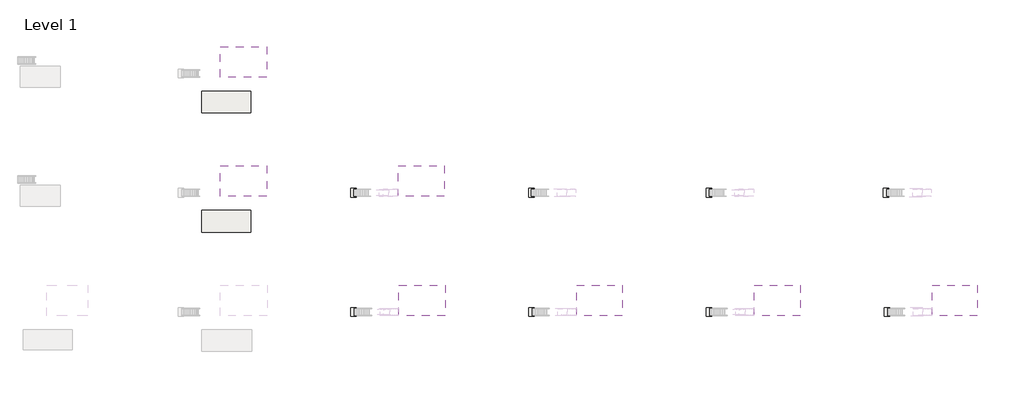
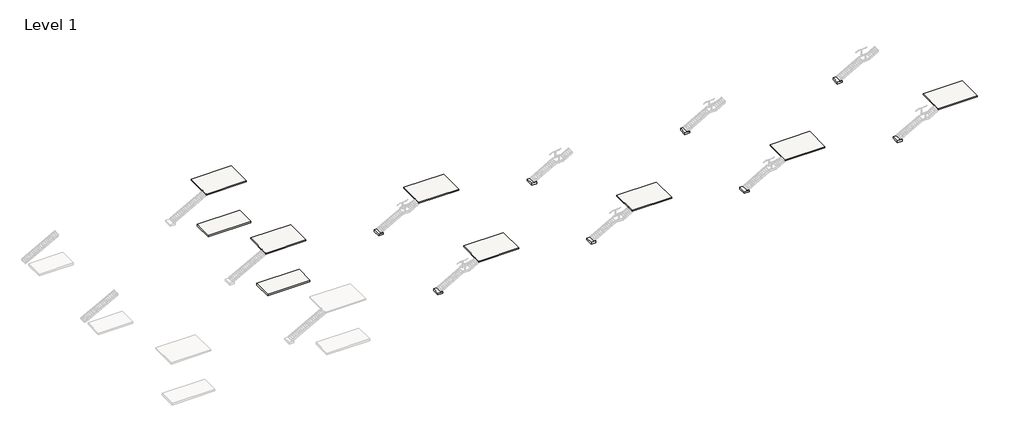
# One storey, part 2 of 36: 17 slabs.
"""IFC4 building model written with IfcOpenShell, lengths in millimetres."""

import ifcopenshell
import ifcopenshell.guid

model = None  # the IFC model being written
_history = None  # IfcOwnerHistory: only IFC2X3 demands one
_inside = {}  # id of a spatial element -> (the spatial element, [elements in it])
_under = {}  # id of a project, library or spatial element -> (it, [spatial elements below it])
_declared = {}  # id of a project -> (the project, [libraries it declares])
_typed = {}  # id of a type object -> (the type object, [elements of that type])
_made_of = {}  # id of a material, layer set ... -> (it, [elements and type objects made of it])


def new_model(schema):
    """Start an empty IFC model of exactly this schema.

    Asked for "IFC4X3", IfcOpenShell would pick the latest addendum, in which some entities
    have other attributes; the version numbers below select the first issue.
    IFC2X3 requires an IfcOwnerHistory on every rooted entity: one is made here for all.
    """
    global model, _history
    if schema == "IFC4X3":
        model = ifcopenshell.file(schema_version=(4, 3, 0, 0))
    else:
        model = ifcopenshell.file(schema=schema)
    _inside.clear()
    _under.clear()
    _declared.clear()
    _typed.clear()
    _made_of.clear()
    _history = None
    if model.schema == "IFC2X3":
        org = make("IfcOrganization", Name="unknown")
        user = make(
            "IfcPersonAndOrganization",
            ThePerson=make("IfcPerson", FamilyName="unknown"),
            TheOrganization=org,
        )
        app = make(
            "IfcApplication",
            ApplicationDeveloper=org,
            Version="unknown",
            ApplicationFullName="unknown",
            ApplicationIdentifier="unknown",
        )
        _history = make(
            "IfcOwnerHistory",
            OwningUser=user,
            OwningApplication=app,
            ChangeAction="ADDED",
            CreationDate=0,
        )
    return model


def make(cls, **values):
    """One entity of the class cls with the attributes given. An attribute that is None is left unset."""
    return model.create_entity(
        cls, **{name: value for name, value in values.items() if value is not None}
    )


def rooted(cls, **values):
    """An entity with a GlobalId (a new one), such as an element, a storey or a relation."""
    return make(cls, GlobalId=ifcopenshell.guid.new(), OwnerHistory=_history, **values)


def si_unit(unit_type, name, prefix=None):
    """IfcSIUnit, for example si_unit("LENGTHUNIT", "METRE", prefix="MILLI")."""
    return make("IfcSIUnit", UnitType=unit_type, Prefix=prefix, Name=name)


def assignment(units):
    """IfcUnitAssignment: the units of a project."""
    return None if units is None else make("IfcUnitAssignment", Units=units)


def point(xyz):
    """IfcCartesianPoint."""
    return None if xyz is None else make("IfcCartesianPoint", Coordinates=xyz)


def direction(xyz):
    """IfcDirection."""
    return None if xyz is None else make("IfcDirection", DirectionRatios=xyz)


def frame(location, z_axis=None, x_axis=None):
    """IfcAxis2Placement3D, a coordinate frame: its origin and axes. An axis left out is left unset."""
    return make(
        "IfcAxis2Placement3D",
        Location=point(location),
        Axis=direction(z_axis),
        RefDirection=direction(x_axis),
    )


def origin():
    """The frame at (0, 0, 0) with its axes left unset."""
    return frame((0.0, 0.0, 0.0))


def place(relative_to, where):
    """IfcLocalPlacement: puts the frame where relative to a parent placement (None: the world)."""
    return make(
        "IfcLocalPlacement", PlacementRelTo=relative_to, RelativePlacement=where
    )


def context(
    kind, dimensions, precision=None, world=None, true_north=None, identifier=None
):
    """IfcGeometricRepresentationContext, for example the 3D "Model" context."""
    return make(
        "IfcGeometricRepresentationContext",
        ContextIdentifier=identifier,
        ContextType=kind,
        CoordinateSpaceDimension=dimensions,
        Precision=precision,
        WorldCoordinateSystem=world,
        TrueNorth=true_north,
    )


def project(units=None, contexts=None):
    """IfcProject with its units and contexts."""
    return rooted(
        "IfcProject",
        Name="project",
        RepresentationContexts=contexts,
        UnitsInContext=assignment(units),
    )


def spatial(cls, under=None, at=None, **own):
    """A site, building, storey or space (cls), placed at a placement, below another one or the project."""
    s = rooted(cls, ObjectPlacement=at, **own)
    if under is not None:
        _under.setdefault(under.id(), (under, []))[1].append(s)
    return s


def polyline(points):
    """IfcPolyline through the points."""
    return make("IfcPolyline", Points=[point(p) for p in points])


def outline(outer, holes=None, kind="AREA"):
    """IfcArbitraryClosedProfileDef: a profile drawn as a closed curve; with holes, ...WithVoids."""
    if holes is None:
        return make("IfcArbitraryClosedProfileDef", ProfileType=kind, OuterCurve=outer)
    return make(
        "IfcArbitraryProfileDefWithVoids",
        ProfileType=kind,
        OuterCurve=outer,
        InnerCurves=holes,
    )


def extrude(swept, where, along, depth):
    """IfcExtrudedAreaSolid: the profile swept, set in the frame where, extruded along a direction by depth."""
    return make(
        "IfcExtrudedAreaSolid",
        SweptArea=swept,
        Position=where,
        ExtrudedDirection=direction(along),
        Depth=depth,
    )


def shape(context_of_items, identifier, shape_type, items):
    """IfcShapeRepresentation: the items that make up one representation, for example the "Body"."""
    return make(
        "IfcShapeRepresentation",
        ContextOfItems=context_of_items,
        RepresentationIdentifier=identifier,
        RepresentationType=shape_type,
        Items=items,
    )


def made_of(thing, what):
    """Note that an element or type object is made of a material, layer set ...; save() writes the relation."""
    if what is not None:
        _made_of.setdefault(what.id(), (what, []))[1].append(thing)
    return thing


def element(
    cls,
    number,
    at=None,
    inside=None,
    cuts=None,
    type_object=None,
    material=None,
    context=None,
    identifier="Body",
    shape_type=None,
    held_by="IfcProductDefinitionShape",
    body=None,
    shapes=None,
    **own,
):
    """One element of the class cls, such as IfcWall. Its Tag is "e" and its number.

    at: its placement. inside: the storey or other place that contains it. cuts: it is an
    opening in that element (IfcRelVoidsElement). A single representation is given by context,
    identifier, shape_type and body (its items); several are given by shapes. held_by: the class
    of the entity that holds the representations. save() writes the other relations.
    """
    e = rooted(cls, Tag="e%d" % number, ObjectPlacement=at, **own)
    if body is not None:
        shapes = [shape(context, identifier, shape_type, body)]
    if shapes is not None:
        e.Representation = make(held_by, Representations=shapes)
    if inside is not None:
        _inside.setdefault(inside.id(), (inside, []))[1].append(e)
    if cuts is not None:
        rooted(
            "IfcRelVoidsElement", RelatingBuildingElement=cuts, RelatedOpeningElement=e
        )
    if type_object is not None:
        _typed.setdefault(type_object.id(), (type_object, []))[1].append(e)
    return made_of(e, material)


def aggregate(whole, parts):
    """IfcRelAggregates: a whole, such as a stair, and the parts it consists of."""
    return rooted("IfcRelAggregates", RelatingObject=whole, RelatedObjects=parts)


def save(model, path):
    """Write the relations noted so far, then the file.

    IfcRelAggregates (storeys below a building ...), IfcRelContainedInSpatialStructure (elements
    in a storey), IfcRelDefinesByType, IfcRelAssociatesMaterial and IfcRelDeclares: one each for
    every whole, place, type object, material and project.
    """
    for whole, parts in _under.values():
        aggregate(whole, parts)
    for where, things in _inside.values():
        rooted(
            "IfcRelContainedInSpatialStructure",
            RelatedElements=things,
            RelatingStructure=where,
        )
    for kind, things in _typed.values():
        rooted("IfcRelDefinesByType", RelatedObjects=things, RelatingType=kind)
    for what, things in _made_of.values():
        rooted("IfcRelAssociatesMaterial", RelatedObjects=things, RelatingMaterial=what)
    for by, libraries in _declared.values():
        rooted("IfcRelDeclares", RelatingContext=by, RelatedDefinitions=libraries)
    model.write(path)


model = new_model("IFC4")

# Units and contexts
model_context = context("Model", 3, world=origin())
ifc_project = project(units=[si_unit("LENGTHUNIT", "METRE", prefix="MILLI")], contexts=[model_context])

# Site, building, storey
site = spatial("IfcSite", under=ifc_project)
building = spatial("IfcBuilding", under=site)
storey = spatial("IfcBuildingStorey", under=building, Name="Level 1", Elevation=0.0)

# Slabs
placement = place(None, origin())
element("IfcSlab", 1, ObjectType="Generic", at=placement, inside=storey, context=model_context, shape_type="SweptSolid", body=[
    extrude(outline(polyline([(72193.8310647, 32263.1530185), (65793.0310647, 32263.1530185), (65793.0310647, 36486.6144242), (72193.8310647, 36486.6144242), (72193.8310647, 32263.1530185)])), frame((0.0, 0.0, 2876.55), z_axis=(0.0, 0.0, 1.0), x_axis=(1.0, 0.0, 0.0)), (0.0, 0.0, 1.0), 171.45),
])
element("IfcSlab", 2, ObjectType="Generic", at=placement, inside=storey, context=model_context, shape_type="SweptSolid", body=[
    extrude(outline(polyline([(72193.8310647, 48731.0664429), (65793.0310647, 48731.0664429), (65793.0310647, 52954.5278486), (72193.8310647, 52954.5278486), (72193.8310647, 48731.0664429)])), frame((0.0, 0.0, 2876.55), z_axis=(0.0, 0.0, 1.0), x_axis=(1.0, 0.0, 0.0)), (0.0, 0.0, 1.0), 171.45),
])
element("IfcSlab", 3, ObjectType="Generic", at=placement, inside=storey, context=model_context, shape_type="SweptSolid", body=[
    extrude(outline(polyline([(96820.0048368, 15795.2395941), (90444.6048368, 15795.2395941), (90444.6048368, 20018.7009998), (96820.0048368, 20018.7009998), (96820.0048368, 15795.2395941)])), frame((0.0, 0.0, 2876.55), z_axis=(0.0, 0.0, 1.0), x_axis=(1.0, 0.0, 0.0)), (0.0, 0.0, 1.0), 171.45),
])
element("IfcSlab", 4, ObjectType="Generic", at=placement, inside=storey, context=model_context, shape_type="SweptSolid", body=[
    extrude(outline(polyline([(96743.8048368, 32263.1530185), (90343.0048368, 32263.1530185), (90343.0048368, 36486.6144242), (96743.8048368, 36486.6144242), (96743.8048368, 32263.1530185)])), frame((0.0, 0.0, 2876.55), z_axis=(0.0, 0.0, 1.0), x_axis=(1.0, 0.0, 0.0)), (0.0, 0.0, 1.0), 171.45),
])
element("IfcSlab", 5, ObjectType="Generic", at=placement, inside=storey, context=model_context, shape_type="SweptSolid", body=[
    extrude(outline(polyline([(121329.6117495, 15795.2395941), (114997.0736551, 15795.2395941), (114997.0736551, 20018.7009998), (121329.6117495, 20018.7009998), (121329.6117495, 15795.2395941)])), frame((0.0, 0.0, 2876.55), z_axis=(0.0, 0.0, 1.0), x_axis=(1.0, 0.0, 0.0)), (0.0, 0.0, 1.0), 171.45),
])
element("IfcSlab", 6, ObjectType="Generic", at=placement, inside=storey, context=model_context, shape_type="SweptSolid", body=[
    extrude(outline(polyline([(145872.0072927, 15795.2395941), (139547.4072927, 15795.2395941), (139547.4072927, 20018.7009998), (145872.0072927, 20018.7009998), (145872.0072927, 15795.2395941)])), frame((0.0, 0.0, 2876.55), z_axis=(0.0, 0.0, 1.0), x_axis=(1.0, 0.0, 0.0)), (0.0, 0.0, 1.0), 171.45),
])
element("IfcSlab", 7, ObjectType="Generic", at=placement, inside=storey, context=model_context, shape_type="SweptSolid", body=[
    extrude(outline(polyline([(170353.0409934, 15804.0539886), (164097.0211992, 15804.0539886), (164097.0211992, 19995.0539886), (170353.0409934, 19995.0539886), (170353.0409934, 15804.0539886)])), frame((0.0, 0.0, 2876.55), z_axis=(0.0, 0.0, 1.0), x_axis=(1.0, 0.0, 0.0)), (0.0, 0.0, 1.0), 171.45),
])
element("IfcSlab", 8, ObjectType="Generic - 7 3/4\"", at=placement, inside=storey, context=model_context, shape_type="SweptSolid", body=[
    extrude(outline(polyline([(70023.7592968, 27323.1621632), (63216.5592968, 27323.1621632), (63216.5592968, 30320.3621632), (70023.7592968, 30320.3621632), (70023.7592968, 27323.1621632)])), frame((0.0, 0.0, -296.7736), z_axis=(0.0, 0.0, 1.0), x_axis=(1.0, 0.0, 0.0)), (0.0, 0.0, 1.0), 296.7736),
])
element("IfcSlab", 9, ObjectType="Generic - 7 3/4\"", at=placement, inside=storey, context=model_context, shape_type="SweptSolid", body=[
    extrude(outline(polyline([(70023.7592968, 43791.0755876), (63216.5592968, 43791.0755876), (63216.5592968, 46788.2755876), (70023.7592968, 46788.2755876), (70023.7592968, 43791.0755876)])), frame((0.0, 0.0, -296.7736), z_axis=(0.0, 0.0, 1.0), x_axis=(1.0, 0.0, 0.0)), (0.0, 0.0, 1.0), 296.7736),
])
element("IfcSlab", 10, ObjectType="Generic - 7 3/4\"", at=placement, inside=storey, context=model_context, shape_type="SweptSolid", body=[
    extrude(outline(polyline([(84574.7335615, 32161.5530185), (83812.7335615, 32161.5530185), (83812.7335615, 33380.7530185), (84574.7335615, 33380.7530185), (84574.7335615, 32161.5530185)])), frame((0.0, 0.0, -296.7736), z_axis=(0.0, 0.0, 1.0), x_axis=(1.0, 0.0, 0.0)), (0.0, 0.0, 1.0), 296.7736),
])
element("IfcSlab", 11, ObjectType="Generic - 7 3/4\"", at=placement, inside=storey, context=model_context, shape_type="SweptSolid", body=[
    extrude(outline(polyline([(109124.7073335, 32161.5530185), (108362.7073335, 32161.5530185), (108362.7073335, 33380.7530185), (109124.7073335, 33380.7530185), (109124.7073335, 32161.5530185)])), frame((0.0, 0.0, -296.7736), z_axis=(0.0, 0.0, 1.0), x_axis=(1.0, 0.0, 0.0)), (0.0, 0.0, 1.0), 296.7736),
])
element("IfcSlab", 12, ObjectType="Generic - 7 3/4\"", at=placement, inside=storey, context=model_context, shape_type="SweptSolid", body=[
    extrude(outline(polyline([(84574.7335615, 15684.8251996), (83812.7335615, 15684.8251996), (83812.7335615, 16904.0251996), (84574.7335615, 16904.0251996), (84574.7335615, 15684.8251996)])), frame((0.0, 0.0, -296.7736), z_axis=(0.0, 0.0, 1.0), x_axis=(1.0, 0.0, 0.0)), (0.0, 0.0, 1.0), 296.7736),
])
element("IfcSlab", 13, ObjectType="Generic - 7 3/4\"", at=placement, inside=storey, context=model_context, shape_type="SweptSolid", body=[
    extrude(outline(polyline([(109124.7073335, 15684.8251996), (108362.7073335, 15684.8251996), (108362.7073335, 16904.0251996), (109124.7073335, 16904.0251996), (109124.7073335, 15684.8251996)])), frame((0.0, 0.0, -296.7736), z_axis=(0.0, 0.0, 1.0), x_axis=(1.0, 0.0, 0.0)), (0.0, 0.0, 1.0), 296.7736),
])
element("IfcSlab", 14, ObjectType="Generic - 7 3/4\"", at=placement, inside=storey, context=model_context, shape_type="SweptSolid", body=[
    extrude(outline(polyline([(133674.6811056, 32161.5530185), (132912.6811056, 32161.5530185), (132912.6811056, 33380.7530185), (133674.6811056, 33380.7530185), (133674.6811056, 32161.5530185)])), frame((0.0, 0.0, -296.7736), z_axis=(0.0, 0.0, 1.0), x_axis=(1.0, 0.0, 0.0)), (0.0, 0.0, 1.0), 296.7736),
])
element("IfcSlab", 15, ObjectType="Generic - 7 3/4\"", at=placement, inside=storey, context=model_context, shape_type="SweptSolid", body=[
    extrude(outline(polyline([(133674.6811056, 15684.8251996), (132912.6811056, 15684.8251996), (132912.6811056, 16904.0251996), (133674.6811056, 16904.0251996), (133674.6811056, 15684.8251996)])), frame((0.0, 0.0, -296.7736), z_axis=(0.0, 0.0, 1.0), x_axis=(1.0, 0.0, 0.0)), (0.0, 0.0, 1.0), 296.7736),
])
element("IfcSlab", 16, ObjectType="Generic - 7 3/4\"", at=placement, inside=storey, context=model_context, shape_type="SweptSolid", body=[
    extrude(outline(polyline([(158224.6548776, 15693.6395941), (157462.6548776, 15693.6395941), (157462.6548776, 16912.8395941), (158224.6548776, 16912.8395941), (158224.6548776, 15693.6395941)])), frame((0.0, 0.0, -296.7736), z_axis=(0.0, 0.0, 1.0), x_axis=(1.0, 0.0, 0.0)), (0.0, 0.0, 1.0), 296.7736),
])
element("IfcSlab", 17, ObjectType="Generic - 7 3/4\"", at=placement, inside=storey, context=model_context, shape_type="SweptSolid", body=[
    extrude(outline(polyline([(158120.5598314, 32152.8395941), (157358.5598314, 32152.8395941), (157358.5598314, 33372.0395941), (158120.5598314, 33372.0395941), (158120.5598314, 32152.8395941)])), frame((0.0, 0.0, -296.7736), z_axis=(0.0, 0.0, 1.0), x_axis=(1.0, 0.0, 0.0)), (0.0, 0.0, 1.0), 296.7736),
])

save(model, "model.ifc")
